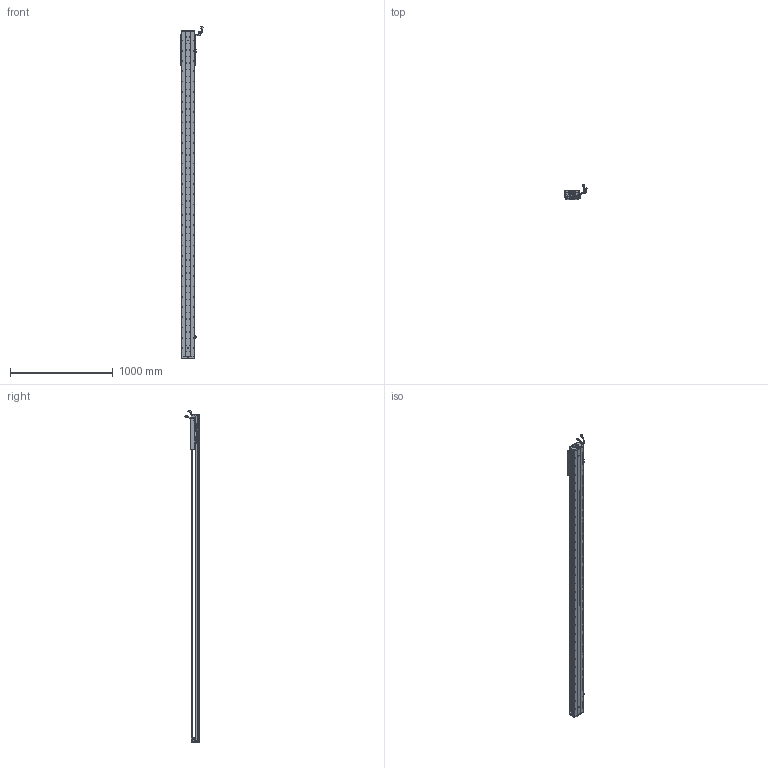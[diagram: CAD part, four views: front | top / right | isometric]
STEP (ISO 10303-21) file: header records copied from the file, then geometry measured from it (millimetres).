
FILE_DESCRIPTION (( 'STEP AP203' ), '1' );
FILE_NAME ('Z4-RY120D-1-L500-B-K.SLDASM_2800.step', '2021-05-17T06:11:40', ( '盈信电脑' ), ( '东莞市道滘镇水果街19号' ), 'SwSTEP 2.0', 'SolidWorks 2016', '' );
FILE_SCHEMA (( 'CONFIG_CONTROL_DESIGN' ));
Length unit declared in the file: millimetre
Products named in the file (37): Z-120詩湍傷裔啣; SEAL-Part-1; PBU_SHEET; Z4-RY120D-1-L500-B-K.SLDASM_2800; RY100FB-遵嫖萇覜茼え; 120-Z-臏賑輸盄裔(21遴); 覜茼ん672; 080黍杅芛假蚾釱21遴; Z4-RY120-500-倰第菁釱_2800; COVER-Part-1; LABEL; SEAL; PSLH080_PSLF2; SCREW-M1.6-1; 672嫖萇羲壽假蚾釱; SCREW-M1.6-2; 140雄赽晤鎢ん堤盄; SCALE-Part-2; SHIELDPLATE; SCREW-M1.6-3; LABEL-Part-1; HARNESS-Part-2; HARNESS; 140蚥薯蝶輸; SCREW-M1.7; SCALE-Part-1; Z4-RY120-L500詩湍100mm遵_2800; HARNESS-Part-1; SCREW-M1.7-1; Z-RY120D詩湍狟揤裔; HOLDER0; COVER; SCREW-M1.6; Z4-RY120铝滑块（21款）; Z-RY120D詩湍奻揤裔; SCALE; 榋妏寠巭燃_暯_M2_2
Assembly tree (43 placements, depth 4):
  Z4-RY120D-1-L500-B-K.SLDASM_2800
    Z4-RY120-500-倰第菁釱_2800
    覜茼ん672  x3
    672嫖萇羲壽假蚾釱  x2
    Z4-RY120铝滑块（21款）
    PSLH080_PSLF2
      SCALE
        SCALE-Part-1
        SCALE-Part-2
      HARNESS
        HARNESS-Part-1
        HARNESS-Part-2
      LABEL
        LABEL-Part-1
      COVER
        COVER-Part-1
      SEAL
        SEAL-Part-1
      榋妏寠巭燃_暯_M2_2
      SHIELDPLATE
      SCREW-M1.7
      SCREW-M1.7-1
      PBU_SHEET
      SCREW-M1.6
      SCREW-M1.6-1
      SCREW-M1.6-2
      SCREW-M1.6-3
      HOLDER0
    080黍杅芛假蚾釱21遴
    120-Z-臏賑輸盄裔(21遴)
    140雄赽晤鎢ん堤盄
    140蚥薯蝶輸  x2
    RY100FB-遵嫖萇覜茼え
    Z-120詩湍傷裔啣  x2
    Z-RY120D詩湍奻揤裔  x2
    Z-RY120D詩湍狟揤裔  x2
    Z4-RY120-L500詩湍100mm遵_2800
Bounding box: 222.83 x 140.94 x 3238.99 mm (x, y, z)
Volume: 7592014.3 mm3; surface area: 2638174.6 mm2
Topology: 38 solids, 38 shells, 3989 faces, 11488 edges, 7244 vertices
Faces by surface type: cylinder 2156, plane 1289, cone 422, torus 69, bspline 53
Entity records: 136981 total; most frequent: CARTESIAN_POINT 42902, ORIENTED_EDGE 19656, DIRECTION 17802, EDGE_CURVE 9828, AXIS2_PLACEMENT_3D 6606, VERTEX_POINT 6364, VECTOR 4590, LINE 4590
